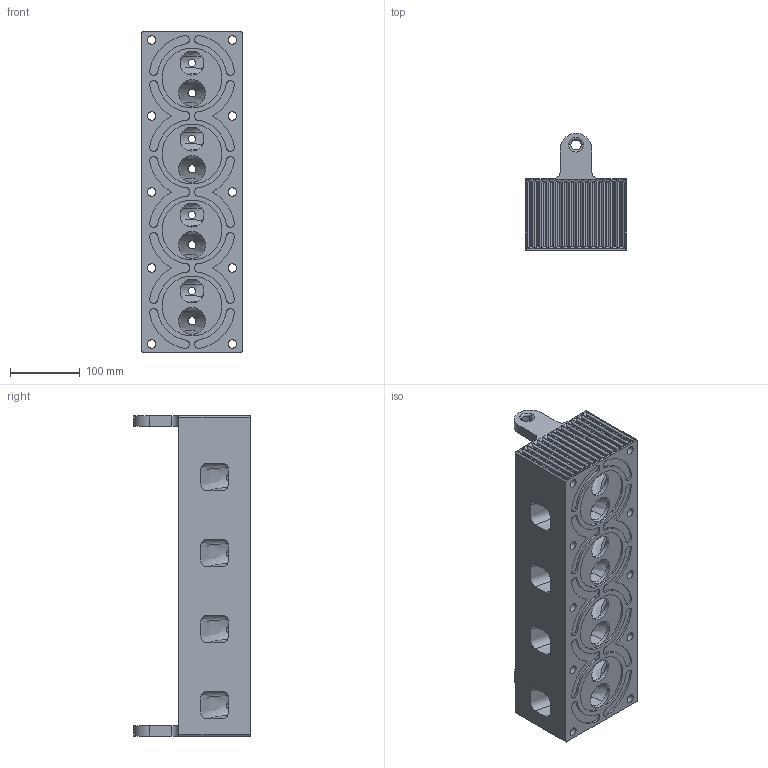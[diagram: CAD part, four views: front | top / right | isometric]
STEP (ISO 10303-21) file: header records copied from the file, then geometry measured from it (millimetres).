
FILE_DESCRIPTION (( 'STEP AP214' ), '1' );
FILE_NAME ('partB.STEP', '2025-03-10T11:30:20', ( '' ), ( '' ), 'SwSTEP 2.0', 'SolidWorks 2021', '' );
FILE_SCHEMA (( 'AUTOMOTIVE_DESIGN' ));
Length unit declared in the file: millimetre
Products named in the file (1): partB
Bounding box: 146 x 168 x 460.1 mm (x, y, z)
Volume: 5153322.2 mm3; surface area: 436152.2 mm2
Topology: 1 solids, 1 shells, 579 faces, 1459 edges, 942 vertices
Faces by surface type: cylinder 383, plane 138, bspline 56, torus 2
Entity records: 23889 total; most frequent: CARTESIAN_POINT 10559, ORIENTED_EDGE 2918, DIRECTION 2519, EDGE_CURVE 1459, VERTEX_POINT 942, AXIS2_PLACEMENT_3D 926, EDGE_LOOP 695, LINE 667
